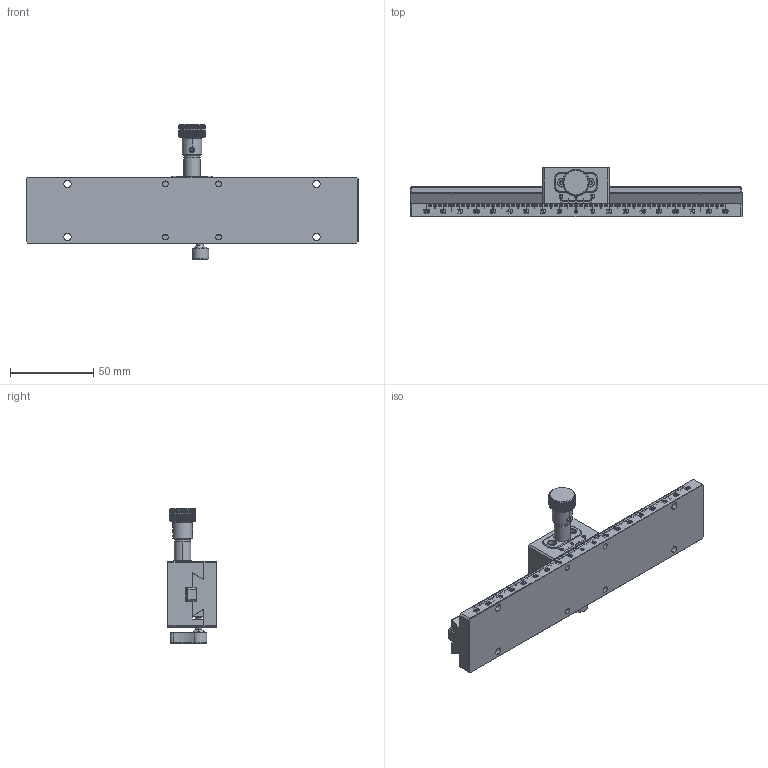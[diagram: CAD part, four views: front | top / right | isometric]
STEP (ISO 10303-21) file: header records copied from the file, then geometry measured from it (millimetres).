
FILE_DESCRIPTION((''),'2;1');
FILE_NAME('ASSY-40-ST180_ASM','2021-12-23T19:07:27',('windows10'),(''),'CREO PARAMETRIC BY PTC INC, 2018260','CREO PARAMETRIC BY PTC INC, 2018260','');
FILE_SCHEMA(('CONFIG_CONTROL_DESIGN'));
Products named in the file (14): BOTTOM-40-200-M; RACK-8-6-200; ASSY-BOTTOM-40-200-M_ASM; TOP-40-40-F-NEW; HOLDER-PINION-16D3; PINION-4-41; WHASHER-9D6-4D1-1D2; HANDLE-16-19; ASSY-HANDLE-16-51D8_ASM; ASSY-TOP-40-40-F_ASM; STOPPER-A-NEW; LEVER-NEW; ASSY-STOPPER-NEW_ASM; ASSY-40-ST180_ASM
Assembly tree (13 placements, depth 4):
  ASSY-40-ST180_ASM
    ASSY-BOTTOM-40-200-M_ASM
      BOTTOM-40-200-M
      RACK-8-6-200
    ASSY-TOP-40-40-F_ASM
      TOP-40-40-F-NEW
      ASSY-HANDLE-16-51D8_ASM
        HOLDER-PINION-16D3
        PINION-4-41
        WHASHER-9D6-4D1-1D2
        HANDLE-16-19
    ASSY-STOPPER-NEW_ASM
      STOPPER-A-NEW
      LEVER-NEW
Bounding box: 200 x 30 x 81.37 mm (x, y, z)
Volume: 127145 mm3; surface area: 46383.9 mm2
Topology: 9 solids, 9 shells, 3369 faces, 8970 edges, 5918 vertices
Faces by surface type: plane 3024, cylinder 213, cone 122, torus 6, bspline 4
Entity records: 104110 total; most frequent: CARTESIAN_POINT 19681, ORIENTED_EDGE 17928, DIRECTION 16086, EDGE_CURVE 8964, VECTOR 8182, LINE 8182, VERTEX_POINT 5918, AXIS2_PLACEMENT_3D 3952
